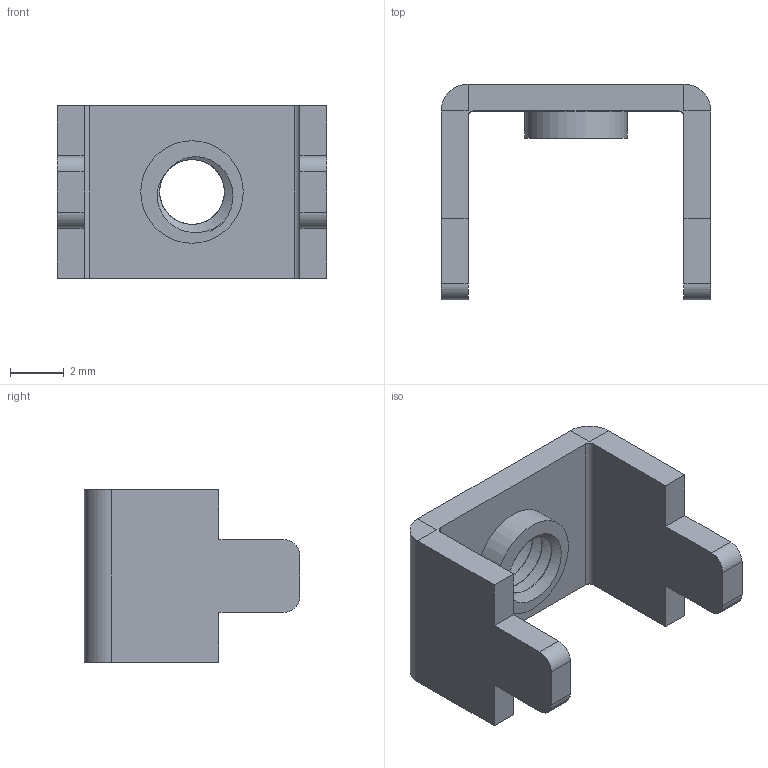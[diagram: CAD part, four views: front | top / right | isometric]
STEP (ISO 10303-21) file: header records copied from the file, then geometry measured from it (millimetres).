
FILE_DESCRIPTION((''),'2;1');
FILE_NAME('PRT0001','2023-11-07T15:34:13',('guoxue_sz'),(''),'CREO PARAMETRIC BY PTC INC, 2016390','CREO PARAMETRIC BY PTC INC, 2016390','');
FILE_SCHEMA(('CONFIG_CONTROL_DESIGN'));
Length unit declared in the file: millimetre
Products named in the file (1): PRT0001
Bounding box: 10 x 8 x 6.4 mm (x, y, z)
Volume: 127.4 mm3; surface area: 348.1 mm2
Topology: 1 solids, 1 shells, 45 faces, 121 edges, 79 vertices
Faces by surface type: plane 23, cylinder 17, bspline 4, cone 1
Entity records: 2353 total; most frequent: CARTESIAN_POINT 1218, ORIENTED_EDGE 242, DIRECTION 202, EDGE_CURVE 121, VERTEX_POINT 79, VECTOR 74, LINE 74, AXIS2_PLACEMENT_3D 64
